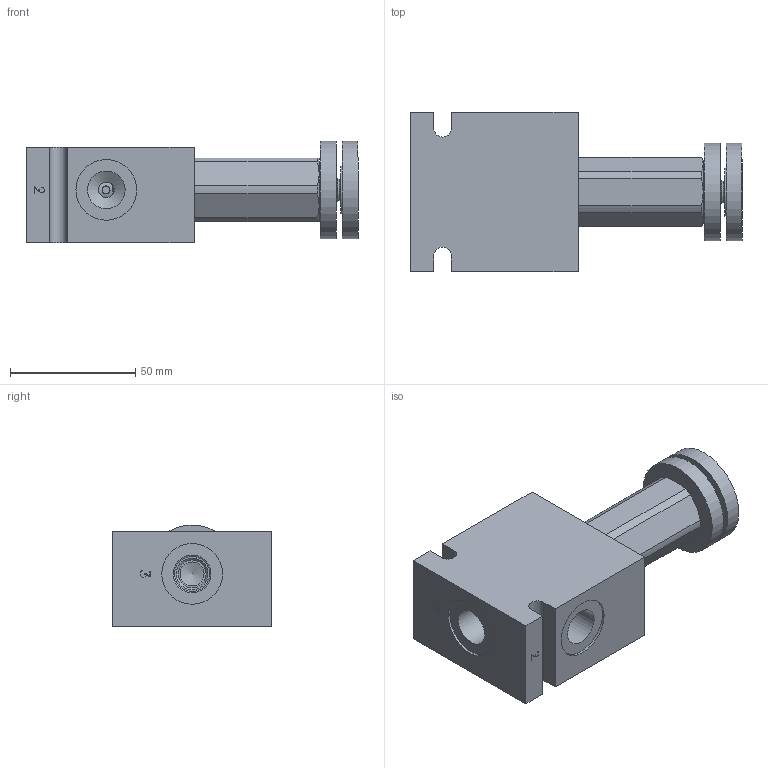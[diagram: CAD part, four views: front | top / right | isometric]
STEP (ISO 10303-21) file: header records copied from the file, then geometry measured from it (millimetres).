
FILE_DESCRIPTION( ( 'Unknown' ), '1' );
FILE_NAME( 'G:/Graphic Design/Graphic Design 2/Data Sheets/PRESSURE CONTROLS/2_STEP/Pressure Compensated Regulator Valves/D-DFPCE0K-B3.stp', 'Unknown', ( 'Unknown' ), ( 'Unknown' ), 'PSStep 16.0.42', 'Unknown', ' ' );
FILE_SCHEMA( ( 'AUTOMOTIVE_DESIGN { 1 0 10303 214 1 1 1 1 }' ) );
Length unit declared in the file: millimetre
Products named in the file (11): DFPCE0K-3D Full; Part26_0; Part28_0; Part30_0; Part32_0; Part34; Part36; Part38; Part40; Assem1; B-DDFB3
Assembly tree (10 placements, depth 3):
  Assem1
    B-DDFB3
    DFPCE0K-3D Full
      Part26_0
      Part28_0
      Part30_0
      Part32_0
      Part34
      Part36
      Part38
      Part40
Bounding box: 132.29 x 63.5 x 40.53 mm (x, y, z)
Surface area: 42144.5 mm2 (no closed solid volume)
Topology: 0 solids, 287 shells, 287 faces, 1171 edges, 1057 vertices
Faces by surface type: plane 145, cone 72, cylinder 65, torus 5
Full cylindrical faces by diameter (mm): 0.2 x3, 3.175 x12, 3.962 x1, 6.3 x1, 8.128 x1, 9.525 x2, 11.11 x1, 12.992 x2, 14 x2, 14.224 x1, 14.592 x2, 15 x6, 15.634 x1, 15.748 x1, 15.773 x2, 15.875 x1, 15.926 x1, 17.234 x1, 17.323 x1, 17.374 x2, 17.526 x1, 17.527 x1, 19.05 x2, 19.622 x1, 20.262 x2, 24.2 x3, 30.175 x1, 38.862 x2
Entity records: 14754 total; most frequent: CARTESIAN_POINT 4277, DIRECTION 1602, VERTEX_POINT 1022, ORIENTED_EDGE 1018, EDGE_CURVE 1018, AXIS2_PLACEMENT_3D 665, FACE_BOUND 446, EDGE_LOOP 442
